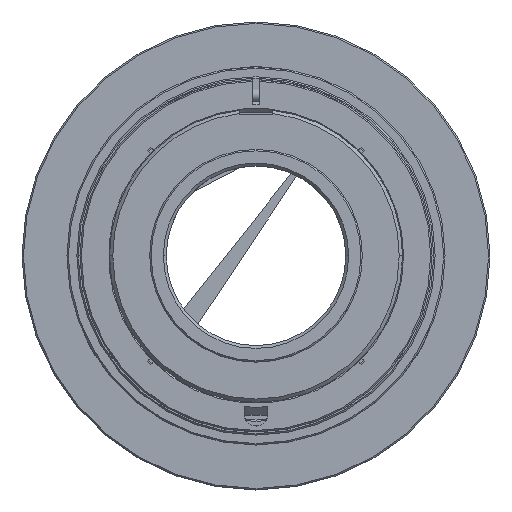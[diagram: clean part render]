
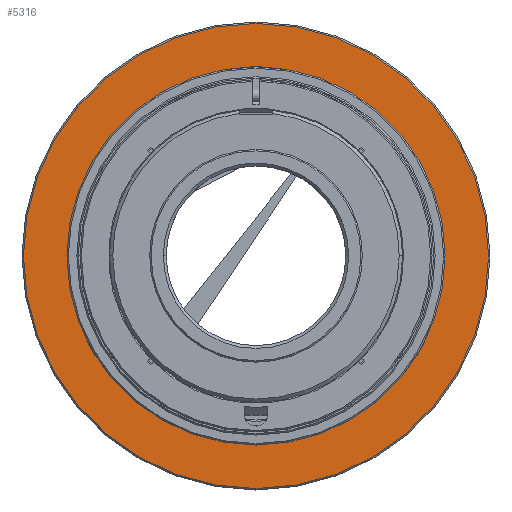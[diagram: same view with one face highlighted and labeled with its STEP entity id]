
A CAD part, top view. The second image highlights one B-rep face of the part: STEP entity #5316.
In plain terms, the highlighted planar face has unit normal (0, 0, 1).
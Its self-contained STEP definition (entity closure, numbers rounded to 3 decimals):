
#508 = AXIS2_PLACEMENT_3D ( 'NONE', #3007, #8481, #3800 ) ;
#1284 = DIRECTION ( 'NONE',  ( 0., 0., -1. ) ) ;
#1351 = CARTESIAN_POINT ( 'NONE',  ( -49.2, 0., -26.3 ) ) ;
#2070 = CARTESIAN_POINT ( 'NONE',  ( 49.2, 0., -26.3 ) ) ;
#2077 = VERTEX_POINT ( 'NONE', #6356 ) ;
#2202 = CARTESIAN_POINT ( 'NONE',  ( 40., 0., -26.3 ) ) ;
#2635 = DIRECTION ( 'NONE',  ( 0., 0., 1. ) ) ;
#2773 = AXIS2_PLACEMENT_3D ( 'NONE', #3811, #9275, #4588 ) ;
#3007 = CARTESIAN_POINT ( 'NONE',  ( 0., 0., -26.3 ) ) ;
#3225 = VERTEX_POINT ( 'NONE', #2202 ) ;
#3383 = AXIS2_PLACEMENT_3D ( 'NONE', #6745, #1284, #6774 ) ;
#3533 = FACE_OUTER_BOUND ( 'NONE', #8769, .T. ) ;
#3542 = CIRCLE ( 'NONE', #2773, 40. ) ;
#3732 = VERTEX_POINT ( 'NONE', #1351 ) ;
#3800 = DIRECTION ( 'NONE',  ( 1., 0., 0. ) ) ;
#3811 = CARTESIAN_POINT ( 'NONE',  ( 0., 0., -26.3 ) ) ;
#4013 = EDGE_CURVE ( 'NONE', #2077, #3225, #3542, .T. ) ;
#4192 = CARTESIAN_POINT ( 'NONE',  ( 0., 0., -26.3 ) ) ;
#4342 = ORIENTED_EDGE ( 'NONE', *, *, #8194, .F. ) ;
#4364 = EDGE_CURVE ( 'NONE', #3732, #6795, #9991, .T. ) ;
#4588 = DIRECTION ( 'NONE',  ( 1., 0., 0. ) ) ;
#4981 = DIRECTION ( 'NONE',  ( -1., 0., 0. ) ) ;
#5316 = ADVANCED_FACE ( 'NONE', ( #3533, #9510 ), #5975, .F. ) ;
#5431 = EDGE_LOOP ( 'NONE', ( #4342, #9905 ) ) ;
#5706 = AXIS2_PLACEMENT_3D ( 'NONE', #4192, #9658, #4981 ) ;
#5975 = PLANE ( 'NONE',  #3383 ) ;
#6119 = ORIENTED_EDGE ( 'NONE', *, *, #4364, .T. ) ;
#6195 = EDGE_CURVE ( 'NONE', #6795, #3732, #6303, .T. ) ;
#6303 = CIRCLE ( 'NONE', #7330, 49.2 ) ;
#6356 = CARTESIAN_POINT ( 'NONE',  ( -40., 0., -26.3 ) ) ;
#6745 = CARTESIAN_POINT ( 'NONE',  ( 0., 49.5, -26.3 ) ) ;
#6774 = DIRECTION ( 'NONE',  ( -1., 0., 0. ) ) ;
#6795 = VERTEX_POINT ( 'NONE', #2070 ) ;
#7329 = CARTESIAN_POINT ( 'NONE',  ( 0., 0., -26.3 ) ) ;
#7330 = AXIS2_PLACEMENT_3D ( 'NONE', #7329, #2635, #8113 ) ;
#8113 = DIRECTION ( 'NONE',  ( -1., 0., 0. ) ) ;
#8194 = EDGE_CURVE ( 'NONE', #3225, #2077, #8551, .T. ) ;
#8481 = DIRECTION ( 'NONE',  ( 0., 0., 1. ) ) ;
#8551 = CIRCLE ( 'NONE', #508, 40. ) ;
#8769 = EDGE_LOOP ( 'NONE', ( #6119, #10143 ) ) ;
#9275 = DIRECTION ( 'NONE',  ( 0., 0., 1. ) ) ;
#9510 = FACE_BOUND ( 'NONE', #5431, .T. ) ;
#9658 = DIRECTION ( 'NONE',  ( 0., 0., 1. ) ) ;
#9905 = ORIENTED_EDGE ( 'NONE', *, *, #4013, .F. ) ;
#9991 = CIRCLE ( 'NONE', #5706, 49.2 ) ;
#10143 = ORIENTED_EDGE ( 'NONE', *, *, #6195, .T. ) ;
